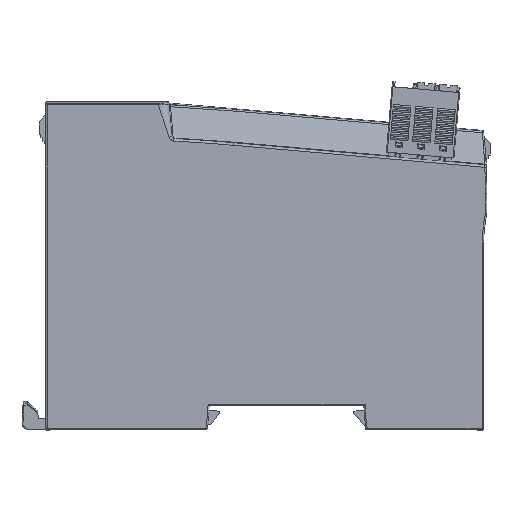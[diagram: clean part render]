
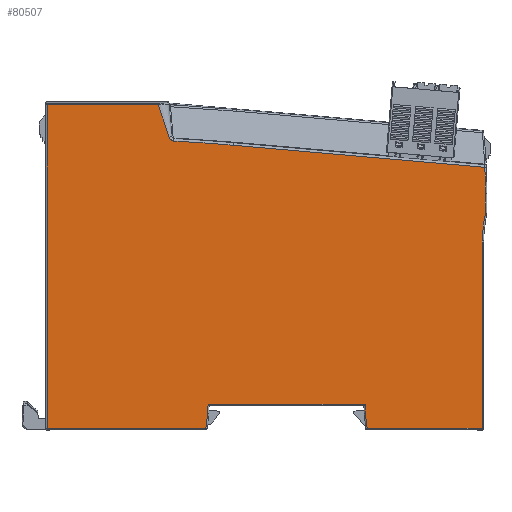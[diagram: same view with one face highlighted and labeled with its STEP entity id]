
A CAD part, left-side view. The second image highlights one B-rep face of the part: STEP entity #80507.
In plain terms, the highlighted planar face has unit normal (-1, 0, 0).
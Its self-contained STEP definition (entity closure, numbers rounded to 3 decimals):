
#1439=DIRECTION('',(0.,-1.,0.));
#1440=VECTOR('',#1439,35.856);
#1441=CARTESIAN_POINT('',(-18.,12.861,-69.2));
#1442=LINE('',#1441,#1440);
#1446=DIRECTION('',(0.,0.142,-0.99));
#1447=VECTOR('',#1446,1.073);
#1448=CARTESIAN_POINT('',(-18.,12.861,-69.2));
#1449=LINE('',#1448,#1447);
#1453=DIRECTION('',(0.,-0.017,1.));
#1454=VECTOR('',#1453,0.983);
#1455=CARTESIAN_POINT('',(-18.,13.031,-71.245));
#1456=LINE('',#1455,#1454);
#1460=DIRECTION('',(0.,-0.115,0.993));
#1461=VECTOR('',#1460,3.478);
#1462=CARTESIAN_POINT('',(-18.,13.432,-74.7));
#1463=LINE('',#1462,#1461);
#1467=DIRECTION('',(0.,-1.,0.));
#1468=VECTOR('',#1467,36.268);
#1469=CARTESIAN_POINT('',(-18.,49.7,-74.7));
#1470=LINE('',#1469,#1468);
#1474=DIRECTION('',(0.,0.,1.));
#1475=VECTOR('',#1474,73.934);
#1476=CARTESIAN_POINT('',(-18.,49.7,-74.7));
#1477=LINE('',#1476,#1475);
#1481=DIRECTION('',(0.,1.,0.));
#1482=VECTOR('',#1481,25.376);
#1483=CARTESIAN_POINT('',(-18.,24.324,-0.766));
#1484=LINE('',#1483,#1482);
#1488=DIRECTION('',(0.,0.325,0.946));
#1489=VECTOR('',#1488,7.795);
#1490=CARTESIAN_POINT('',(-18.,21.793,-8.139));
#1491=LINE('',#1490,#1489);
#1495=CARTESIAN_POINT('',(-18.,41.308,-400.));
#1496=DIRECTION('',(-1.,0.,0.));
#1497=DIRECTION('',(0.,-0.087,0.996));
#1498=AXIS2_PLACEMENT_3D('',#1495,#1496,#1497);
#1503=DIRECTION('',(0.,0.996,0.087));
#1504=VECTOR('',#1503,57.728);
#1505=CARTESIAN_POINT('',(-18.,-50.321,
-15.021));
#1506=LINE('',#1505,#1504);
#1510=CARTESIAN_POINT('',(-18.,90.56,-21.045));
#1511=DIRECTION('',(-1.,0.,0.));
#1512=DIRECTION('',(0.,-1.,0.));
#1513=AXIS2_PLACEMENT_3D('',#1510,#1511,#1512);
#1518=DIRECTION('',(0.,0.,1.));
#1519=VECTOR('',#1518,4.519);
#1520=CARTESIAN_POINT('',(-18.,-50.45,-25.564));
#1521=LINE('',#1520,#1519);
#1525=CARTESIAN_POINT('',(-18.,-85.3,-32.833));
#1526=DIRECTION('',(-1.,0.,0.));
#1527=DIRECTION('',(0.,0.979,0.204));
#1528=AXIS2_PLACEMENT_3D('',#1525,#1526,#1527);
#1533=DIRECTION('',(0.,0.,-1.));
#1534=VECTOR('',#1533,41.867);
#1535=CARTESIAN_POINT('',(-18.,-49.7,-32.833));
#1536=LINE('',#1535,#1534);
#1540=DIRECTION('',(0.,1.,0.));
#1541=VECTOR('',#1540,26.27);
#1542=CARTESIAN_POINT('',(-18.,-49.7,-74.7));
#1543=LINE('',#1542,#1541);
#1547=DIRECTION('',(0.,0.115,0.993));
#1548=VECTOR('',#1547,3.477);
#1549=CARTESIAN_POINT('',(-18.,-23.43,-74.7));
#1550=LINE('',#1549,#1548);
#1554=DIRECTION('',(0.,-0.017,-1.));
#1555=VECTOR('',#1554,2.047);
#1556=CARTESIAN_POINT('',(-18.,-22.995,-69.2));
#1557=LINE('',#1556,#1555);
#1561=CARTESIAN_POINT('',(-18.,12.861,-69.2));
#1595=CARTESIAN_POINT('',(-18.,13.013,-70.262));
#11171=CARTESIAN_POINT('',(-18.,20.741,-9.041));
#11172=CARTESIAN_POINT('',(-18.,20.762,
-9.04));
#11173=CARTESIAN_POINT('',(-18.,20.803,
-9.036));
#11174=CARTESIAN_POINT('',(-18.,20.865,
-9.027));
#11175=CARTESIAN_POINT('',(-18.,20.928,
-9.014));
#11176=CARTESIAN_POINT('',(-18.,20.99,
-8.996));
#11177=CARTESIAN_POINT('',(-18.,21.052,
-8.975));
#11178=CARTESIAN_POINT('',(-18.,21.113,
-8.95));
#11179=CARTESIAN_POINT('',(-18.,21.173,
-8.92));
#11180=CARTESIAN_POINT('',(-18.,21.232,
-8.887));
#11181=CARTESIAN_POINT('',(-18.,21.289,-8.85));
#11182=CARTESIAN_POINT('',(-18.,21.345,
-8.809));
#11183=CARTESIAN_POINT('',(-18.,21.399,
-8.763));
#11184=CARTESIAN_POINT('',(-18.,21.451,
-8.714));
#11185=CARTESIAN_POINT('',(-18.,21.501,
-8.661));
#11186=CARTESIAN_POINT('',(-18.,21.549,
-8.604));
#11187=CARTESIAN_POINT('',(-18.,21.594,
-8.542));
#11188=CARTESIAN_POINT('',(-18.,21.638,
-8.476));
#11189=CARTESIAN_POINT('',(-18.,21.679,
-8.404));
#11190=CARTESIAN_POINT('',(-18.,21.718,
-8.326));
#11191=CARTESIAN_POINT('',(-18.,21.756,
-8.24));
#11192=CARTESIAN_POINT('',(-18.,21.781,
-8.174));
#11193=CARTESIAN_POINT('',(-18.,21.793,-8.139));
#11258=CARTESIAN_POINT('',(-18.,24.324,-0.766));
#76731=CARTESIAN_POINT('',(-18.,-50.45,-25.564));
#76732=CARTESIAN_POINT('',(-18.,-49.7,-32.833));
#76733=VERTEX_POINT('',#76731);
#76734=VERTEX_POINT('',#76732);
#77258=CARTESIAN_POINT('',(-18.,-50.321,
-15.021));
#77259=CARTESIAN_POINT('',(-18.,7.187,-9.99));
#77260=VERTEX_POINT('',#77258);
#77261=VERTEX_POINT('',#77259);
#77267=CARTESIAN_POINT('',(-18.,20.741,-9.041));
#77269=VERTEX_POINT('',#77267);
#77271=CARTESIAN_POINT('',(-18.,21.793,-8.139));
#77273=VERTEX_POINT('',#77271);
#77275=VERTEX_POINT('',#11258);
#77284=CARTESIAN_POINT('',(-18.,-49.7,-74.7));
#77285=CARTESIAN_POINT('',(-18.,-23.43,-74.7));
#77286=VERTEX_POINT('',#77284);
#77287=VERTEX_POINT('',#77285);
#77290=CARTESIAN_POINT('',(-18.,-23.031,-71.246));
#77291=VERTEX_POINT('',#77290);
#77296=CARTESIAN_POINT('',(-18.,-22.995,-69.2));
#77297=VERTEX_POINT('',#77296);
#77304=CARTESIAN_POINT('',(-18.,13.432,-74.7));
#77305=CARTESIAN_POINT('',(-18.,13.031,-71.245));
#77306=VERTEX_POINT('',#77304);
#77307=VERTEX_POINT('',#77305);
#77310=CARTESIAN_POINT('',(-18.,49.7,-74.7));
#77311=VERTEX_POINT('',#77310);
#77328=CARTESIAN_POINT('',(-18.,49.7,-0.766));
#77329=VERTEX_POINT('',#77328);
#77332=CARTESIAN_POINT('',(-18.,-50.45,-21.045));
#77333=VERTEX_POINT('',#77332);
#77617=VERTEX_POINT('',#1595);
#77619=VERTEX_POINT('',#1561);
#80466=CARTESIAN_POINT('',(-18.,0.,0.));
#80467=DIRECTION('',(1.,0.,0.));
#80468=DIRECTION('',(0.,0.,-1.));
#80469=AXIS2_PLACEMENT_3D('',#80466,#80467,#80468);
#80470=PLANE('',#80469);
#80472=ORIENTED_EDGE('',*,*,#80471,.F.);
#80474=ORIENTED_EDGE('',*,*,#80473,.T.);
#80476=ORIENTED_EDGE('',*,*,#80475,.F.);
#80478=ORIENTED_EDGE('',*,*,#80477,.F.);
#80480=ORIENTED_EDGE('',*,*,#80479,.F.);
#80482=ORIENTED_EDGE('',*,*,#80481,.T.);
#80484=ORIENTED_EDGE('',*,*,#80483,.F.);
#80486=ORIENTED_EDGE('',*,*,#80485,.F.);
#80488=ORIENTED_EDGE('',*,*,#80487,.F.);
#80490=ORIENTED_EDGE('',*,*,#80489,.F.);
#80492=ORIENTED_EDGE('',*,*,#80491,.F.);
#80494=ORIENTED_EDGE('',*,*,#80493,.F.);
#80496=ORIENTED_EDGE('',*,*,#80495,.F.);
#80498=ORIENTED_EDGE('',*,*,#80497,.T.);
#80500=ORIENTED_EDGE('',*,*,#80499,.T.);
#80501=ORIENTED_EDGE('',*,*,#80371,.T.);
#80502=ORIENTED_EDGE('',*,*,#80450,.T.);
#80504=ORIENTED_EDGE('',*,*,#80503,.F.);
#80505=EDGE_LOOP('',(#80472,#80474,#80476,#80478,#80480,#80482,#80484,#80486,
#80488,#80490,#80492,#80494,#80496,#80498,#80500,#80501,#80502,#80504));
#80506=FACE_OUTER_BOUND('',#80505,.F.);
#1499=CIRCLE('',#1498,391.5);
#1514=CIRCLE('',#1513,141.01);
#1529=CIRCLE('',#1528,35.6);
#11194=B_SPLINE_CURVE_WITH_KNOTS('',3,(#11171,#11172,#11173,#11174,#11175,
#11176,#11177,#11178,#11179,#11180,#11181,#11182,#11183,#11184,#11185,#11186,
#11187,#11188,#11189,#11190,#11191,#11192,#11193),.UNSPECIFIED.,.F.,.F.,(4,1,1,
1,1,1,1,1,1,1,1,1,1,1,1,1,1,1,1,1,4),(0.,0.05,0.1,0.15,0.2,0.25,
0.3,0.35,0.4,0.45,0.5,0.55,0.6,0.65,0.7,0.75,0.8,0.85,
0.9,0.95,1.),.UNSPECIFIED.);
#80371=EDGE_CURVE('',#77286,#77287,#1543,.T.);
#80450=EDGE_CURVE('',#77287,#77291,#1550,.T.);
#80471=EDGE_CURVE('',#77619,#77297,#1442,.T.);
#80473=EDGE_CURVE('',#77619,#77617,#1449,.T.);
#80475=EDGE_CURVE('',#77307,#77617,#1456,.T.);
#80477=EDGE_CURVE('',#77306,#77307,#1463,.T.);
#80479=EDGE_CURVE('',#77311,#77306,#1470,.T.);
#80481=EDGE_CURVE('',#77311,#77329,#1477,.T.);
#80483=EDGE_CURVE('',#77275,#77329,#1484,.T.);
#80485=EDGE_CURVE('',#77273,#77275,#1491,.T.);
#80487=EDGE_CURVE('',#77269,#77273,#11194,.T.);
#80489=EDGE_CURVE('',#77261,#77269,#1499,.T.);
#80491=EDGE_CURVE('',#77260,#77261,#1506,.T.);
#80493=EDGE_CURVE('',#77333,#77260,#1514,.T.);
#80495=EDGE_CURVE('',#76733,#77333,#1521,.T.);
#80497=EDGE_CURVE('',#76733,#76734,#1529,.T.);
#80499=EDGE_CURVE('',#76734,#77286,#1536,.T.);
#80503=EDGE_CURVE('',#77297,#77291,#1557,.T.);
#80507=ADVANCED_FACE('',(#80506),#80470,.F.);
